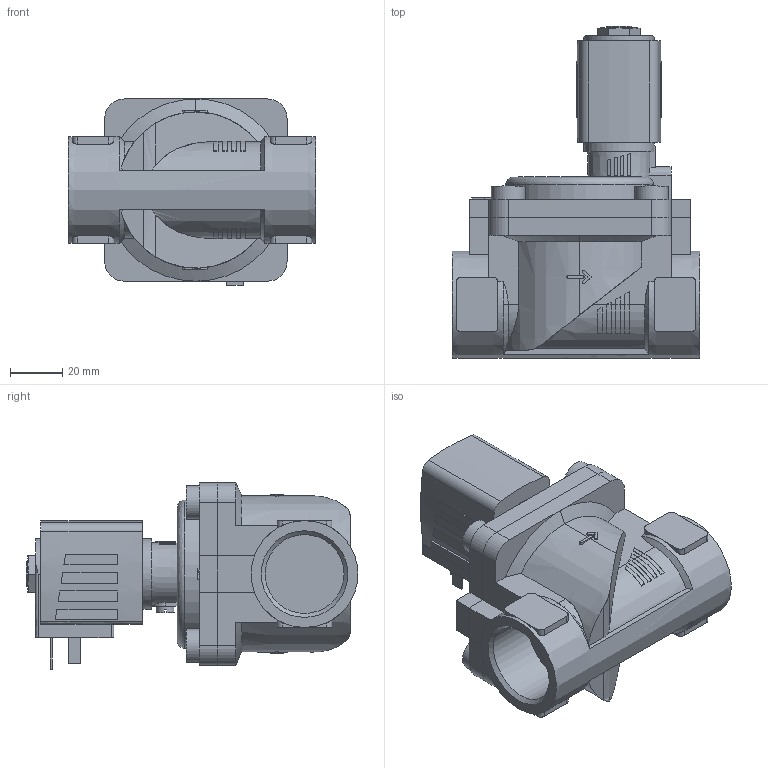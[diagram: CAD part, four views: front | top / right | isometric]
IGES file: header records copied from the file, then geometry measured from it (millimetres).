
Start section: Data from Parasolid IGES Translator 26.0.171, Copyright(c) 2006 Siemens PLM Software. All Rights Reserved.
Global section: file name: 6281-375192-2_2-Way_Solenoid_Valve__Servo-assisted__General_Purpose.igs; native system: By Siemens PLM Incorporated; preprocessor: XPlus GENERIC/IGES 26.0.171; author: Noname; organization: Noname; date: 20240827.151137; units: millimetre
Bounding box: 95 x 127.5 x 71.5 mm (x, y, z)
Surface area: 54184.3 mm2 (no closed solid volume)
Topology: 0 solids, 0 shells, 367 faces, 1946 edges, 1938 vertices
Faces by surface type: extrusion 245, revolution 122
